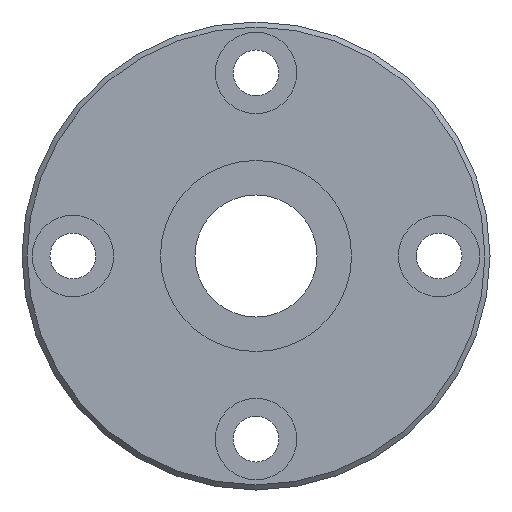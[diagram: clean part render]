
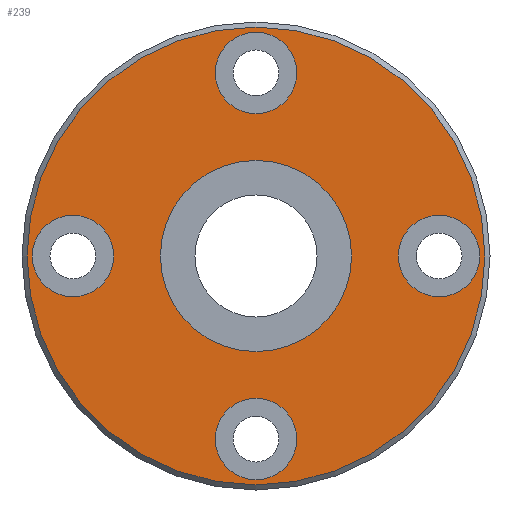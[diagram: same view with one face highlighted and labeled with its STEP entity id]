
A CAD part, left-side view. The second image highlights one B-rep face of the part: STEP entity #239.
In plain terms, the highlighted planar face has unit normal (-1, 0, 0).
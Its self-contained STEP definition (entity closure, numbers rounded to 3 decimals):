
#164=CARTESIAN_POINT('',(0.,0.,22.5));
#165=VERTEX_POINT('',#164);
#166=CARTESIAN_POINT('',(0.,0.0,0.0));
#167=DIRECTION('',(1.0,0.0,0.0));
#168=DIRECTION('',(0.0,0.0,-1.0));
#169=AXIS2_PLACEMENT_3D('',#166,#167,#168);
#170=CIRCLE('',#169,22.5);
#171=EDGE_CURVE('',#165,#165,#170,.T.);
#176=CARTESIAN_POINT('',(0.,0.0,11.2));
#177=DIRECTION('',(-1.0,0.0,0.0));
#178=DIRECTION('',(0.0,0.0,1.0));
#179=AXIS2_PLACEMENT_3D('',#176,#177,#178);
#180=PLANE('',#179);
#181=ORIENTED_EDGE('',*,*,#171,.F.);
#182=EDGE_LOOP('',(#181));
#183=FACE_OUTER_BOUND('',#182,.T.);
#184=CARTESIAN_POINT('',(0.,0.0,9.4));
#185=VERTEX_POINT('',#184);
#186=CARTESIAN_POINT('',(0.,0.0,0.0));
#187=DIRECTION('',(-1.0,0.0,0.0));
#188=DIRECTION('',(0.0,0.0,1.0));
#189=AXIS2_PLACEMENT_3D('',#186,#187,#188);
#190=CIRCLE('',#189,9.4);
#191=EDGE_CURVE('',#185,#185,#190,.T.);
#192=ORIENTED_EDGE('',*,*,#191,.F.);
#193=EDGE_LOOP('',(#192));
#194=FACE_BOUND('',#193,.T.);
#195=CARTESIAN_POINT('',(0.0,-14.,0.));
#196=VERTEX_POINT('',#195);
#197=CARTESIAN_POINT('',(0.,-18.0,0.));
#198=DIRECTION('',(1.0,0.0,0.0));
#199=DIRECTION('',(0.0,1.0,0.0));
#200=AXIS2_PLACEMENT_3D('',#197,#198,#199);
#201=CIRCLE('',#200,4.0);
#202=EDGE_CURVE('',#196,#196,#201,.T.);
#203=ORIENTED_EDGE('',*,*,#202,.T.);
#204=EDGE_LOOP('',(#203));
#205=FACE_BOUND('',#204,.T.);
#206=CARTESIAN_POINT('',(0.0,22.0,0.));
#207=VERTEX_POINT('',#206);
#208=CARTESIAN_POINT('',(0.,18.0,0.));
#209=DIRECTION('',(1.0,0.0,0.0));
#210=DIRECTION('',(0.0,1.0,0.0));
#211=AXIS2_PLACEMENT_3D('',#208,#209,#210);
#212=CIRCLE('',#211,4.0);
#213=EDGE_CURVE('',#207,#207,#212,.T.);
#214=ORIENTED_EDGE('',*,*,#213,.T.);
#215=EDGE_LOOP('',(#214));
#216=FACE_BOUND('',#215,.T.);
#217=CARTESIAN_POINT('',(0.0,4.,18.0));
#218=VERTEX_POINT('',#217);
#219=CARTESIAN_POINT('',(0.,0.,18.0));
#220=DIRECTION('',(1.0,0.0,0.0));
#221=DIRECTION('',(0.0,1.0,0.0));
#222=AXIS2_PLACEMENT_3D('',#219,#220,#221);
#223=CIRCLE('',#222,4.0);
#224=EDGE_CURVE('',#218,#218,#223,.T.);
#225=ORIENTED_EDGE('',*,*,#224,.T.);
#226=EDGE_LOOP('',(#225));
#227=FACE_BOUND('',#226,.T.);
#228=CARTESIAN_POINT('',(0.0,4.,-18.0));
#229=VERTEX_POINT('',#228);
#230=CARTESIAN_POINT('',(0.,0.,-18.0));
#231=DIRECTION('',(1.0,0.0,0.0));
#232=DIRECTION('',(0.0,1.0,0.0));
#233=AXIS2_PLACEMENT_3D('',#230,#231,#232);
#234=CIRCLE('',#233,4.0);
#235=EDGE_CURVE('',#229,#229,#234,.T.);
#236=ORIENTED_EDGE('',*,*,#235,.T.);
#237=EDGE_LOOP('',(#236));
#238=FACE_BOUND('',#237,.T.);
#239=ADVANCED_FACE('',(#183,#194,#205,#216,#227,#238),#180,.T.);
